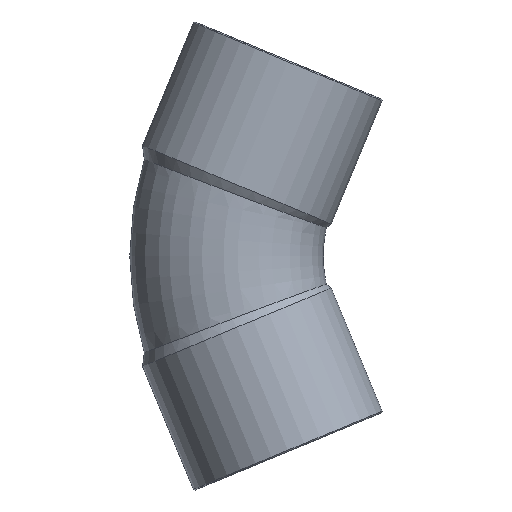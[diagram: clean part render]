
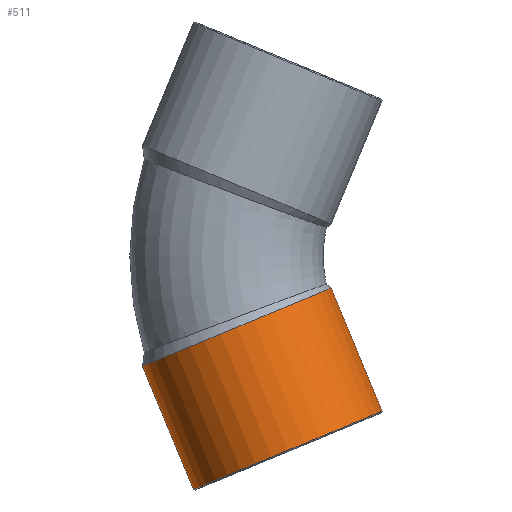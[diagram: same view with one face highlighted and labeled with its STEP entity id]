
A CAD part, front view. The second image highlights one B-rep face of the part: STEP entity #511.
In plain terms, the highlighted cylindrical face has radius 16.9 mm (diameter 33.8 mm), a partial arc.
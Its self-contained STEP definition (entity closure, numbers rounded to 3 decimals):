
#201=CARTESIAN_POINT('',(-47.86,0.,-18.255));
#202=VERTEX_POINT('',#201);
#209=CARTESIAN_POINT('',(-16.633,0.,-5.32));
#210=VERTEX_POINT('',#209);
#211=CARTESIAN_POINT('',(-32.246,0.,-11.788));
#212=DIRECTION('',(-0.383,0.,0.924));
#213=DIRECTION('',(0.924,0.,0.383));
#214=AXIS2_PLACEMENT_3D('',#211,#212,#213);
#215=CIRCLE('',#214,16.9);
#216=EDGE_CURVE('',#202,#210,#215,.T.);
#480=CARTESIAN_POINT('',(-32.154,0.,-12.01));
#481=DIRECTION('',(0.383,0.,-0.924));
#482=DIRECTION('',(0.924,0.,0.383));
#483=AXIS2_PLACEMENT_3D('',#480,#481,#482);
#484=CYLINDRICAL_SURFACE('',#483,16.9);
#485=CARTESIAN_POINT('',(-8.198,0.,-25.684));
#486=VERTEX_POINT('',#485);
#487=CARTESIAN_POINT('',(-16.633,0.,-5.32));
#488=DIRECTION('',(0.383,0.,-0.924));
#489=VECTOR('',#488,22.041);
#490=LINE('',#487,#489);
#491=EDGE_CURVE('',#210,#486,#490,.T.);
#492=ORIENTED_EDGE('',*,*,#491,.F.);
#493=ORIENTED_EDGE('',*,*,#216,.F.);
#494=CARTESIAN_POINT('',(-39.425,0.,-38.618));
#495=VERTEX_POINT('',#494);
#496=CARTESIAN_POINT('',(-39.425,0.,-38.618));
#497=DIRECTION('',(-0.383,0.,0.924));
#498=VECTOR('',#497,22.041);
#499=LINE('',#496,#498);
#500=EDGE_CURVE('',#495,#202,#499,.T.);
#501=ORIENTED_EDGE('',*,*,#500,.F.);
#502=CARTESIAN_POINT('',(-23.811,0.,-32.151));
#503=DIRECTION('',(0.383,0.,-0.924));
#504=DIRECTION('',(0.924,0.,0.383));
#505=AXIS2_PLACEMENT_3D('',#502,#503,#504);
#506=CIRCLE('',#505,16.9);
#507=EDGE_CURVE('',#486,#495,#506,.T.);
#508=ORIENTED_EDGE('',*,*,#507,.F.);
#509=EDGE_LOOP('',(#492,#493,#501,#508));
#510=FACE_OUTER_BOUND('',#509,.T.);
#511=ADVANCED_FACE('',(#510),#484,.T.);
